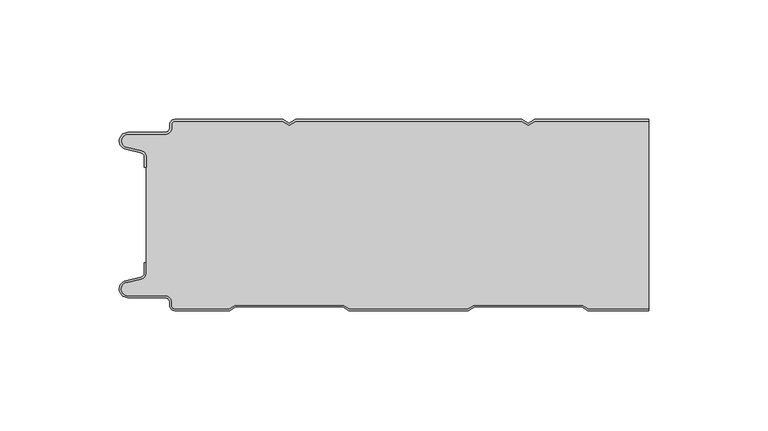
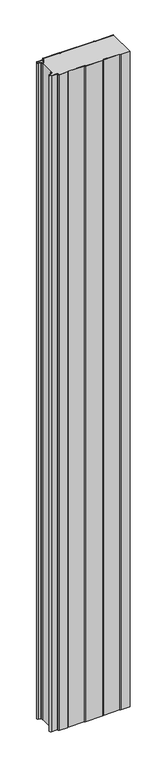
"""IFC4 building model written with IfcOpenShell, lengths in millimetres: plate geometry, PMH_Curtain-Panel_Perfil-Estándar : ACH_PMH_Panel-Acústico-Sectorización_80M."""

from ifc_helpers import new_model, si_unit, point, frame_2d, origin, origin_with_axes, place, context, project, spatial, polyline, circle_curve, trimmed, segment, composite_curve, outline, extrude, source, transform, mapped, element, save


def plate_c1a73980(model_context):
    return source(origin(), model_context, "Body", "SweptSolid", [
        extrude(outline(composite_curve([segment(trimmed(circle_curve(frame_2d((-102.0119739, -15.878557)), 2.0), [point((-100.0119739, -15.878557))], [point((-101.5620718, -13.9298169))], True, "CARTESIAN"), True, "CONTINUOUS"), segment(polyline([(-101.5620718, -13.9298169), (-107.7217978, -12.507732)]), True, "CONTINUOUS"), segment(trimmed(circle_curve(frame_2d((-106.9119739, -9.0)), 3.6), [point((-107.7217978, -12.507732))], [point((-106.9119739, -5.4))], False, "CARTESIAN"), True, "CONTINUOUS"), segment(polyline([(-106.9119739, -5.4), (-91.4119739, -5.4)]), True, "CONTINUOUS"), segment(trimmed(circle_curve(frame_2d((-91.4119739, -3.4)), 2.0), [point((-91.4119739, -5.4))], [point((-89.4119739, -3.4))], True, "CARTESIAN"), True, "CONTINUOUS"), segment(polyline([(-89.4119739, -3.4), (-89.4119739, -2.0)]), True, "CONTINUOUS"), segment(trimmed(circle_curve(frame_2d((-87.4119739, -2.0)), 2.0), [point((-89.4119739, -2.0))], [point((-87.4119739, 0.0))], False, "CARTESIAN"), True, "CONTINUOUS"), segment(polyline([(-87.4119739, 0.0), (-42.1119734, 0.0), (-39.4119739, -1.5588455), (-36.7119745, 0.0), (57.8880266, 0.0), (60.5880261, -1.5588455), (63.2880255, 0.0), (111.0119739, 0.0), (111.0119739, -0.8), (63.5023849, -0.8), (60.5880261, -2.482606), (57.6736672, -0.8), (-36.4976151, -0.8), (-39.4119739, -2.482606), (-42.3263328, -0.8), (-87.4119739, -0.8)]), True, "CONTINUOUS"), segment(trimmed(circle_curve(frame_2d((-87.4119739, -2.0)), 1.2), [point((-87.4119739, -0.8))], [point((-88.6119739, -2.0))], True, "CARTESIAN"), True, "CONTINUOUS"), segment(polyline([(-88.6119739, -2.0), (-88.6119739, -3.4)]), True, "CONTINUOUS"), segment(trimmed(circle_curve(frame_2d((-91.4119739, -3.4)), 2.8), [point((-88.6119739, -3.4))], [point((-91.4119739, -6.2))], False, "CARTESIAN"), True, "CONTINUOUS"), segment(polyline([(-91.4119739, -6.2), (-106.9119739, -6.2)]), True, "CONTINUOUS"), segment(trimmed(circle_curve(frame_2d((-106.9119739, -9.0)), 2.8), [point((-106.9119739, -6.2))], [point((-107.541837, -11.7282362))], True, "CARTESIAN"), True, "CONTINUOUS"), segment(polyline([(-107.541837, -11.7282362), (-101.3821109, -13.150321)]), True, "CONTINUOUS"), segment(trimmed(circle_curve(frame_2d((-102.0119739, -15.878557)), 2.8), [point((-101.3821109, -13.150321))], [point((-99.2119739, -15.878557))], False, "CARTESIAN"), True, "CONTINUOUS"), segment(polyline([(-99.2119739, -15.878557), (-99.2119739, -20.0), (-100.0119739, -20.0), (-100.0119739, -15.878557)]), True, "CONTINUOUS")], self_intersect=False)), origin_with_axes(), (0.0, 0.0, 1.0), 1945.7507136),
        extrude(outline(composite_curve([segment(polyline([(-99.2119739, -64.121443), (-99.2119739, -15.8785573)]), True, "CONTINUOUS"), segment(trimmed(circle_curve(frame_2d((-102.0119739, -15.8785573)), 2.8), [point((-99.2119739, -15.8785573))], [point((-101.3821109, -13.1503212))], True, "CARTESIAN"), True, "CONTINUOUS"), segment(polyline([(-101.3821109, -13.1503212), (-107.541837, -11.7282362)]), True, "CONTINUOUS"), segment(trimmed(circle_curve(frame_2d((-106.911974, -9.0)), 2.8), [point((-107.541837, -11.7282362))], [point((-106.911974, -6.2))], False, "CARTESIAN"), True, "CONTINUOUS"), segment(polyline([(-106.911974, -6.2), (-91.411974, -6.2)]), True, "CONTINUOUS"), segment(trimmed(circle_curve(frame_2d((-91.411974, -3.4)), 2.8), [point((-91.411974, -6.2))], [point((-88.611974, -3.4))], True, "CARTESIAN"), True, "CONTINUOUS"), segment(polyline([(-88.611974, -3.4), (-88.611974, -2.0)]), True, "CONTINUOUS"), segment(trimmed(circle_curve(frame_2d((-87.411974, -2.0)), 1.2), [point((-88.611974, -2.0))], [point((-87.411974, -0.8))], False, "CARTESIAN"), True, "CONTINUOUS"), segment(polyline([(-87.411974, -0.8), (-42.3263329, -0.8), (-39.411974, -2.482606), (-36.4976152, -0.8), (57.6736671, -0.8), (60.588026, -2.482606), (63.5023848, -0.8), (111.0119739, -0.8), (111.0119739, -79.2), (85.7985382, -79.2), (83.2004606, -77.7), (37.9717445, -77.7), (35.3736669, -79.2), (-14.2014618, -79.2), (-16.7995394, -77.7), (-62.0282555, -77.7), (-64.6263331, -79.2), (-87.4119739, -79.2)]), True, "CONTINUOUS"), segment(trimmed(circle_curve(frame_2d((-87.4119739, -78.0)), 1.2), [point((-87.4119739, -79.2))], [point((-88.6119739, -78.0))], False, "CARTESIAN"), True, "CONTINUOUS"), segment(polyline([(-88.6119739, -78.0), (-88.6119739, -76.5999998)]), True, "CONTINUOUS"), segment(trimmed(circle_curve(frame_2d((-91.4119739, -76.5999998)), 2.8), [point((-88.6119739, -76.5999998))], [point((-91.4119739, -73.7999998))], True, "CARTESIAN"), True, "CONTINUOUS"), segment(polyline([(-91.4119739, -73.7999998), (-106.9119739, -73.7999998)]), True, "CONTINUOUS"), segment(trimmed(circle_curve(frame_2d((-106.9119739, -71.0)), 2.7999998), [point((-106.9119739, -73.7999998))], [point((-107.5418369, -68.271764))], False, "CARTESIAN"), True, "CONTINUOUS"), segment(polyline([(-107.5418369, -68.271764), (-101.3821109, -66.8496792)]), True, "CONTINUOUS"), segment(trimmed(circle_curve(frame_2d((-102.0119739, -64.121443)), 2.8), [point((-101.3821109, -66.8496792))], [point((-99.2119739, -64.121443))], True, "CARTESIAN"), True, "CONTINUOUS")], self_intersect=False)), origin_with_axes(), (0.0, 0.0, 1.0), 1945.7507136),
        extrude(outline(composite_curve([segment(trimmed(circle_curve(frame_2d((-87.4119739, -78.0)), 2.0), [point((-87.4119739, -80.0))], [point((-89.4119739, -78.0))], False, "CARTESIAN"), True, "CONTINUOUS"), segment(polyline([(-89.4119739, -78.0), (-89.4119739, -76.6)]), True, "CONTINUOUS"), segment(trimmed(circle_curve(frame_2d((-91.4119739, -76.6)), 2.0), [point((-89.4119739, -76.6))], [point((-91.4119739, -74.6))], True, "CARTESIAN"), True, "CONTINUOUS"), segment(polyline([(-91.4119739, -74.6), (-106.9119739, -74.6)]), True, "CONTINUOUS"), segment(trimmed(circle_curve(frame_2d((-106.9119739, -71.0)), 3.6), [point((-106.9119739, -74.6))], [point((-107.7217979, -67.4922678))], False, "CARTESIAN"), True, "CONTINUOUS"), segment(polyline([(-107.7217979, -67.4922678), (-101.5620718, -66.070183)]), True, "CONTINUOUS"), segment(trimmed(circle_curve(frame_2d((-102.0119739, -64.121443)), 2.0), [point((-101.5620718, -66.070183))], [point((-100.0119739, -64.121443))], True, "CARTESIAN"), True, "CONTINUOUS"), segment(polyline([(-100.0119739, -64.121443), (-100.0119739, -60.0), (-99.2119739, -60.0), (-99.2119739, -64.121443)]), True, "CONTINUOUS"), segment(trimmed(circle_curve(frame_2d((-102.0119739, -64.121443)), 2.8), [point((-99.2119739, -64.121443))], [point((-101.3821109, -66.8496792))], False, "CARTESIAN"), True, "CONTINUOUS"), segment(polyline([(-101.3821109, -66.8496792), (-107.5418369, -68.271764)]), True, "CONTINUOUS"), segment(trimmed(circle_curve(frame_2d((-106.9119739, -71.0)), 2.8), [point((-107.5418369, -68.271764))], [point((-106.9119739, -73.8))], True, "CARTESIAN"), True, "CONTINUOUS"), segment(polyline([(-106.9119739, -73.8), (-91.4119739, -73.8)]), True, "CONTINUOUS"), segment(trimmed(circle_curve(frame_2d((-91.4119739, -76.6)), 2.8), [point((-91.4119739, -73.8))], [point((-88.6119739, -76.6))], False, "CARTESIAN"), True, "CONTINUOUS"), segment(polyline([(-88.6119739, -76.6), (-88.6119739, -78.0)]), True, "CONTINUOUS"), segment(trimmed(circle_curve(frame_2d((-87.4119739, -78.0)), 1.2), [point((-88.6119739, -78.0))], [point((-87.4119739, -79.2))], True, "CARTESIAN"), True, "CONTINUOUS"), segment(polyline([(-87.4119739, -79.2), (-64.6263331, -79.2), (-62.0282555, -77.7), (-16.7995394, -77.7), (-14.2014618, -79.2), (35.3736669, -79.2), (37.9717445, -77.7), (83.2004606, -77.7), (85.7985382, -79.2), (111.0119739, -79.2), (111.0119739, -80.0), (85.584179, -80.0), (82.9861014, -78.5), (38.1861037, -78.5), (35.5880261, -80.0), (-14.415821, -80.0), (-17.0138986, -78.5), (-61.8138963, -78.5), (-64.4119739, -80.0), (-87.4119739, -80.0)]), True, "CONTINUOUS")], self_intersect=False)), origin_with_axes(), (0.0, 0.0, 1.0), 1945.7507136),
    ])


if __name__ == "__main__":
    model = new_model("IFC4")
    model_context = context("Model", 3, world=origin())
    ifc_project = project(units=[si_unit("LENGTHUNIT", "METRE", prefix="MILLI")], contexts=[model_context])
    site = spatial("IfcSite", under=ifc_project)
    building = spatial("IfcBuilding", under=site)
    placement = place(None, origin())
    plate_shape = plate_c1a73980(model_context)
    element("IfcPlate", 1, ObjectType="PMH_Curtain-Panel_Perfil-Estándar : ACH_PMH_Panel-Acústico-Sectorización_80M", at=placement, inside=building, context=model_context, shape_type="MappedRepresentation", body=[
        mapped(plate_shape, transform((0.0, 0.0, 0.0), x_axis=(1.0, 0.0, 0.0), y_axis=(0.0, 1.0, 0.0), z_axis=(0.0, 0.0, 1.0))),
    ])
    save(model, "model.ifc")
